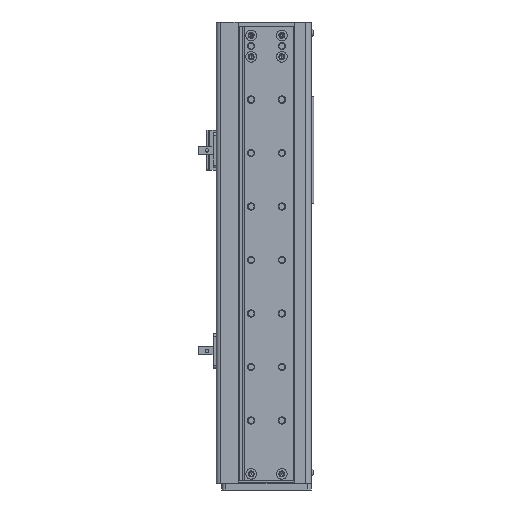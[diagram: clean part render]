
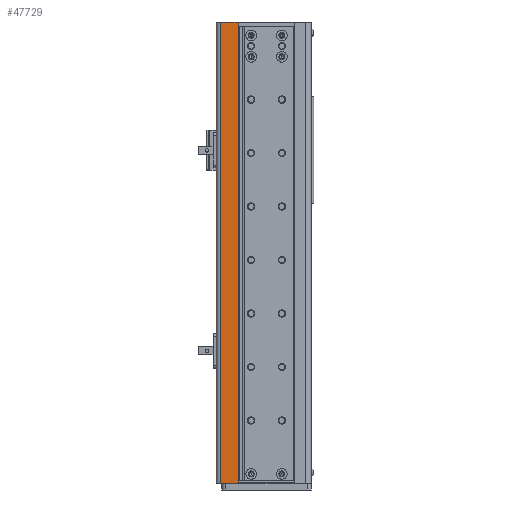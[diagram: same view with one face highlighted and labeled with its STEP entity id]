
A CAD part, front view. The second image highlights one B-rep face of the part: STEP entity #47729.
In plain terms, the highlighted planar face has unit normal (0, -1, 0).
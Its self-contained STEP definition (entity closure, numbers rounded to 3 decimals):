
#2349 = DIRECTION ( 'NONE',  ( 1., 0., 0. ) ) ;
#2371 = DIRECTION ( 'NONE',  ( 1., 0., 0. ) ) ;
#2419 = CARTESIAN_POINT ( 'NONE',  ( 12.5, 0., 0. ) ) ;
#2467 = CARTESIAN_POINT ( 'NONE',  ( 12.5, 0., 345. ) ) ;
#4690 = EDGE_CURVE ( 'NONE', #31829, #36649, #23164, .T. ) ;
#6093 = ORIENTED_EDGE ( 'NONE', *, *, #4690, .T. ) ;
#7716 = CARTESIAN_POINT ( 'NONE',  ( -1., 0., 0. ) ) ;
#8351 = VECTOR ( 'NONE', #2371, 1000. ) ;
#8515 = DIRECTION ( 'NONE',  ( -1., 0., 0. ) ) ;
#10028 = EDGE_CURVE ( 'NONE', #31829, #14849, #14526, .T. ) ;
#14526 = LINE ( 'NONE', #2467, #42794 ) ;
#14849 = VERTEX_POINT ( 'NONE', #36503 ) ;
#16159 = EDGE_CURVE ( 'NONE', #36649, #18638, #46510, .T. ) ;
#18638 = VERTEX_POINT ( 'NONE', #33689 ) ;
#19614 = CARTESIAN_POINT ( 'NONE',  ( -1., 0., 0. ) ) ;
#19871 = CARTESIAN_POINT ( 'NONE',  ( 12.5, 0., 345. ) ) ;
#20839 = VECTOR ( 'NONE', #43989, 1000. ) ;
#23164 = LINE ( 'NONE', #7716, #20839 ) ;
#24176 = CARTESIAN_POINT ( 'NONE',  ( 12.3, 0., 345. ) ) ;
#24436 = CARTESIAN_POINT ( 'NONE',  ( -1., 0., 345. ) ) ;
#24501 = DIRECTION ( 'NONE',  ( 0., 0., 1. ) ) ;
#25120 = ORIENTED_EDGE ( 'NONE', *, *, #27260, .T. ) ;
#25806 = FACE_OUTER_BOUND ( 'NONE', #29340, .T. ) ;
#27260 = EDGE_CURVE ( 'NONE', #18638, #14849, #27629, .T. ) ;
#27526 = PLANE ( 'NONE',  #38485 ) ;
#27629 = LINE ( 'NONE', #24176, #45565 ) ;
#29340 = EDGE_LOOP ( 'NONE', ( #31264, #6093, #38873, #25120 ) ) ;
#31225 = DIRECTION ( 'NONE',  ( 0., 1., 0. ) ) ;
#31264 = ORIENTED_EDGE ( 'NONE', *, *, #10028, .F. ) ;
#31829 = VERTEX_POINT ( 'NONE', #24436 ) ;
#33689 = CARTESIAN_POINT ( 'NONE',  ( 12.3, 0., 0. ) ) ;
#36503 = CARTESIAN_POINT ( 'NONE',  ( 12.3, 0., 345. ) ) ;
#36649 = VERTEX_POINT ( 'NONE', #19614 ) ;
#38485 = AXIS2_PLACEMENT_3D ( 'NONE', #19871, #31225, #8515 ) ;
#38873 = ORIENTED_EDGE ( 'NONE', *, *, #16159, .T. ) ;
#42794 = VECTOR ( 'NONE', #2349, 1000. ) ;
#43989 = DIRECTION ( 'NONE',  ( 0., 0., -1. ) ) ;
#45565 = VECTOR ( 'NONE', #24501, 1000. ) ;
#46510 = LINE ( 'NONE', #2419, #8351 ) ;
#47729 = ADVANCED_FACE ( 'NONE', ( #25806 ), #27526, .F. ) ;
